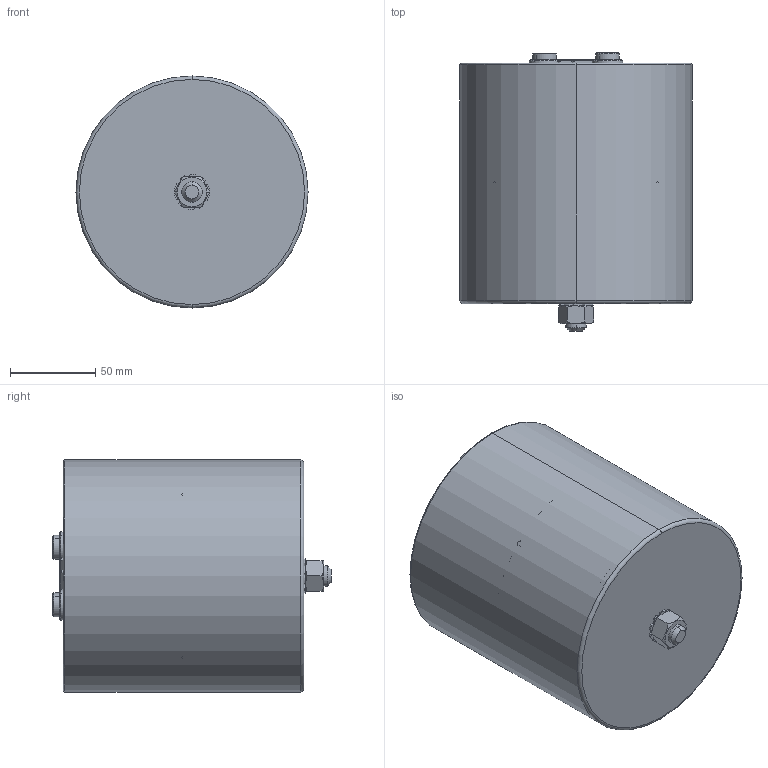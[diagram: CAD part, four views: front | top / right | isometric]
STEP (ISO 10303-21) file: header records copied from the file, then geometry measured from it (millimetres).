
FILE_DESCRIPTION (( 'STEP AP203' ), '1' );
FILE_NAME ('B25690Cx_136x141_147.STEP', '2021-09-07T06:27:33', ( '' ), ( '' ), 'SwSTEP 2.0', 'SolidWorks 2017', '' );
FILE_SCHEMA (( 'CONFIG_CONTROL_DESIGN' ));
Length unit declared in the file: millimetre
Products named in the file (1): B25690Cx_136x141_147
Bounding box: 136 x 163 x 136 mm (x, y, z)
Volume: 272180.3 mm3; surface area: 180925.4 mm2
Topology: 1 solids, 3 shells, 295 faces, 753 edges, 470 vertices
Faces by surface type: plane 144, cylinder 97, cone 38, torus 8, sphere 8
Entity records: 9246 total; most frequent: CARTESIAN_POINT 2131, DIRECTION 1509, ORIENTED_EDGE 1490, EDGE_CURVE 745, AXIS2_PLACEMENT_3D 592, VERTEX_POINT 470, VECTOR 325, LINE 325
